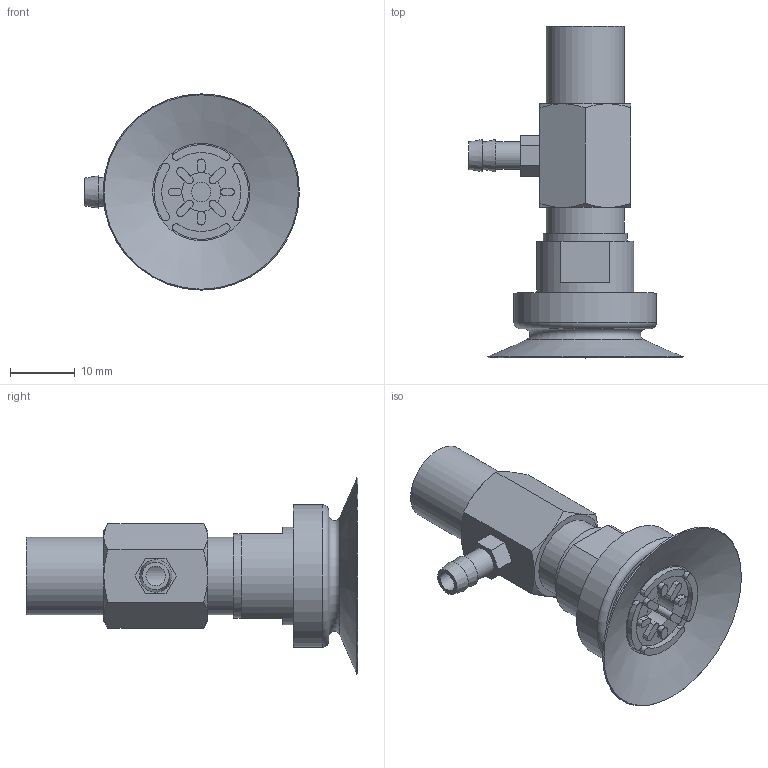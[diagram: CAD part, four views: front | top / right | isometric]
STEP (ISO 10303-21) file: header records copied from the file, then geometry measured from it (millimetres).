
FILE_DESCRIPTION(('STEP AP203'),'1');
FILE_NAME('.stp','2025-05-30T05:49:39',(' '),(' '),'Spatial InterOp 3D',' ',' ');
FILE_SCHEMA(('CONFIG_CONTROL_DESIGN'));
Length unit declared in the file: millimetre
Products named in the file (3): BBPAYK-30-※; BPAG-30-_; BPAYK-30
Assembly tree (2 placements, depth 2):
  BBPAYK-30-※
    BPAG-30-_
    BPAYK-30
Bounding box: 33.15 x 51.2 x 30.3 mm (x, y, z)
Volume: 8352.1 mm3; surface area: 5668.4 mm2
Topology: 2 solids, 2 shells, 136 faces, 321 edges, 206 vertices
Faces by surface type: plane 64, cylinder 49, cone 21, torus 2
Full cylindrical faces by diameter (mm): 3 x2, 4.26 x1, 4.6 x1, 4.917 x2, 5 x1, 6 x1, 12 x2, 13 x1, 15 x1, 22 x1
Entity records: 4184 total; most frequent: CARTESIAN_POINT 948, DIRECTION 678, ORIENTED_EDGE 582, EDGE_CURVE 291, AXIS2_PLACEMENT_3D 274, VERTEX_POINT 202, EDGE_LOOP 182, FACE_OUTER_BOUND 151
